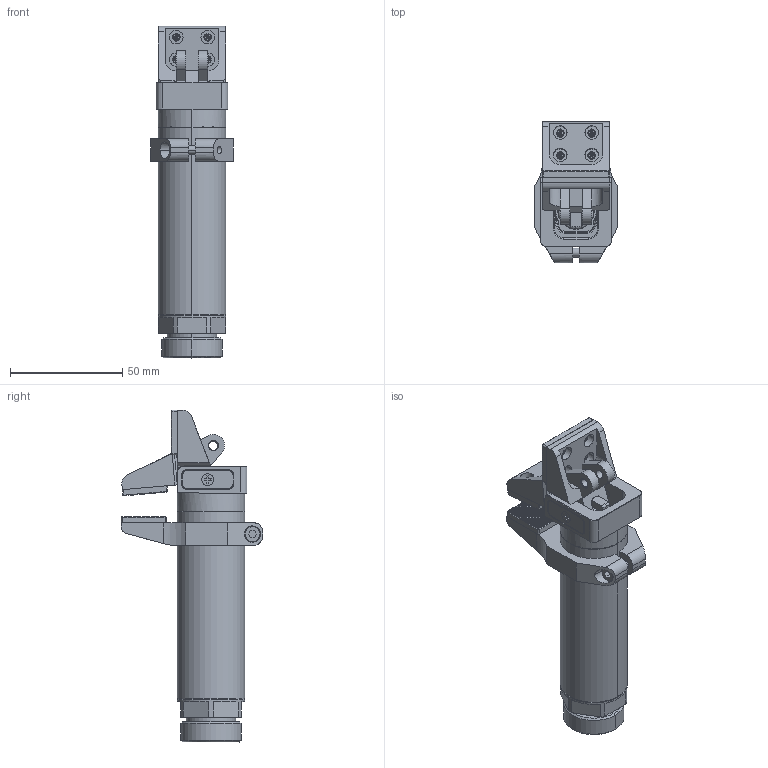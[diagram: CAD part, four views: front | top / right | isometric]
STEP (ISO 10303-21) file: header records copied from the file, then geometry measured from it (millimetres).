
FILE_DESCRIPTION (( 'STEP AP214' ), '1' );
FILE_NAME ('GFR30-95G-C.STEP', '2019-11-13T02:19:46', ( '微软用户' ), ( '微软中国' ), 'SwSTEP 2.0', 'SolidWorks 2016', '' );
FILE_SCHEMA (( 'AUTOMOTIVE_DESIGN' ));
Length unit declared in the file: millimetre
Products named in the file (1): GFR30-95G-C
Bounding box: 37 x 63 x 148 mm (x, y, z)
Volume: 90297.7 mm3; surface area: 53816.3 mm2
Topology: 16 solids, 16 shells, 10321 faces, 21651 edges, 11391 vertices
Faces by surface type: plane 9465, cylinder 557, cone 140, bspline 109, torus 42, sphere 8
Entity records: 376157 total; most frequent: CARTESIAN_POINT 49200, ORIENTED_EDGE 43302, DIRECTION 42824, EDGE_CURVE 21651, LINE 19768, VECTOR 19768, AXIS2_PLACEMENT_3D 11528, VERTEX_POINT 11391
